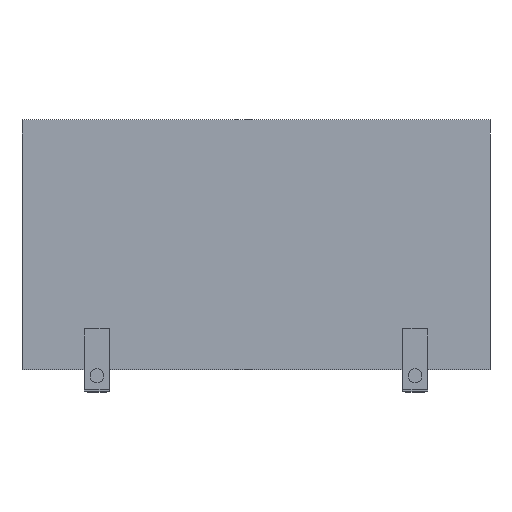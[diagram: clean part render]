
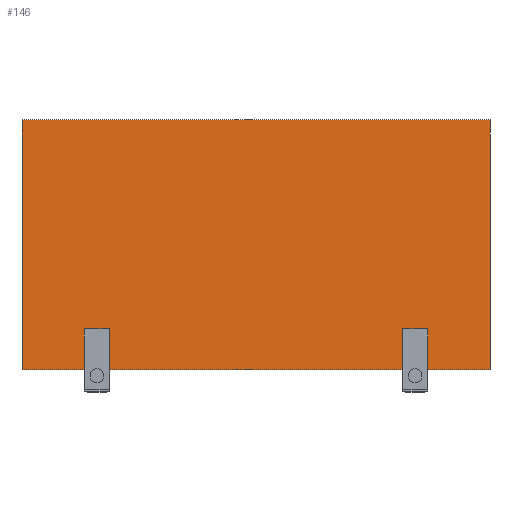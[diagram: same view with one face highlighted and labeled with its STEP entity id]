
A CAD part, front view. The second image highlights one B-rep face of the part: STEP entity #146.
In plain terms, the highlighted planar face has unit normal (0, -1, 0).
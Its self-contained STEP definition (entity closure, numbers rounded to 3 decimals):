
#146 = ADVANCED_FACE( '', ( #282 ), #283, .F. );
#282 = FACE_OUTER_BOUND( '', #424, .T. );
#283 = PLANE( '', #425 );
#424 = EDGE_LOOP( '', ( #632, #633, #634, #635 ) );
#425 = AXIS2_PLACEMENT_3D( '', #636, #637, #638 );
#632 = ORIENTED_EDGE( '', *, *, #885, .F. );
#633 = ORIENTED_EDGE( '', *, *, #886, .F. );
#634 = ORIENTED_EDGE( '', *, *, #876, .F. );
#635 = ORIENTED_EDGE( '', *, *, #820, .F. );
#636 = CARTESIAN_POINT( '', ( 0., 0., 0. ) );
#637 = DIRECTION( '', ( 0., 1., 0. ) );
#638 = DIRECTION( '', ( 0., 0., 1. ) );
#820 = EDGE_CURVE( '', #939, #940, #941, .T. );
#876 = EDGE_CURVE( '', #940, #1030, #1031, .T. );
#885 = EDGE_CURVE( '', #1042, #939, #1043, .T. );
#886 = EDGE_CURVE( '', #1030, #1042, #1044, .T. );
#939 = VERTEX_POINT( '', #1114 );
#940 = VERTEX_POINT( '', #1115 );
#941 = LINE( '', #1116, #1117 );
#1030 = VERTEX_POINT( '', #1243 );
#1031 = LINE( '', #1244, #1245 );
#1042 = VERTEX_POINT( '', #1261 );
#1043 = LINE( '', #1262, #1263 );
#1044 = LINE( '', #1264, #1265 );
#1114 = CARTESIAN_POINT( '', ( 0., 0., 0. ) );
#1115 = CARTESIAN_POINT( '', ( 0., 0., 400. ) );
#1116 = CARTESIAN_POINT( '', ( 0., 0., 0. ) );
#1117 = VECTOR( '', #1360, 1000. );
#1243 = CARTESIAN_POINT( '', ( 750., 0., 400. ) );
#1244 = CARTESIAN_POINT( '', ( 0., 0., 400. ) );
#1245 = VECTOR( '', #1413, 1000. );
#1261 = CARTESIAN_POINT( '', ( 750., 0., 0. ) );
#1262 = CARTESIAN_POINT( '', ( 750., 0., 0. ) );
#1263 = VECTOR( '', #1419, 1000. );
#1264 = CARTESIAN_POINT( '', ( 750., 0., 400. ) );
#1265 = VECTOR( '', #1420, 1000. );
#1360 = DIRECTION( '', ( 0., 0., 1. ) );
#1413 = DIRECTION( '', ( 1., 0., 0. ) );
#1419 = DIRECTION( '', ( -1., 0., 0. ) );
#1420 = DIRECTION( '', ( 0., 0., -1. ) );
